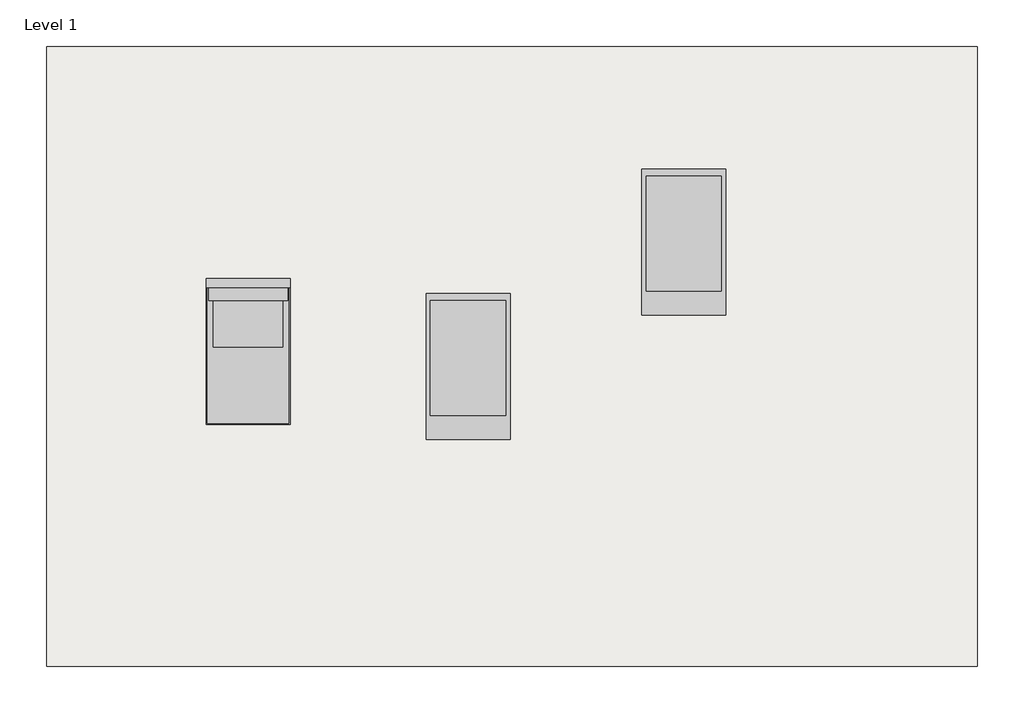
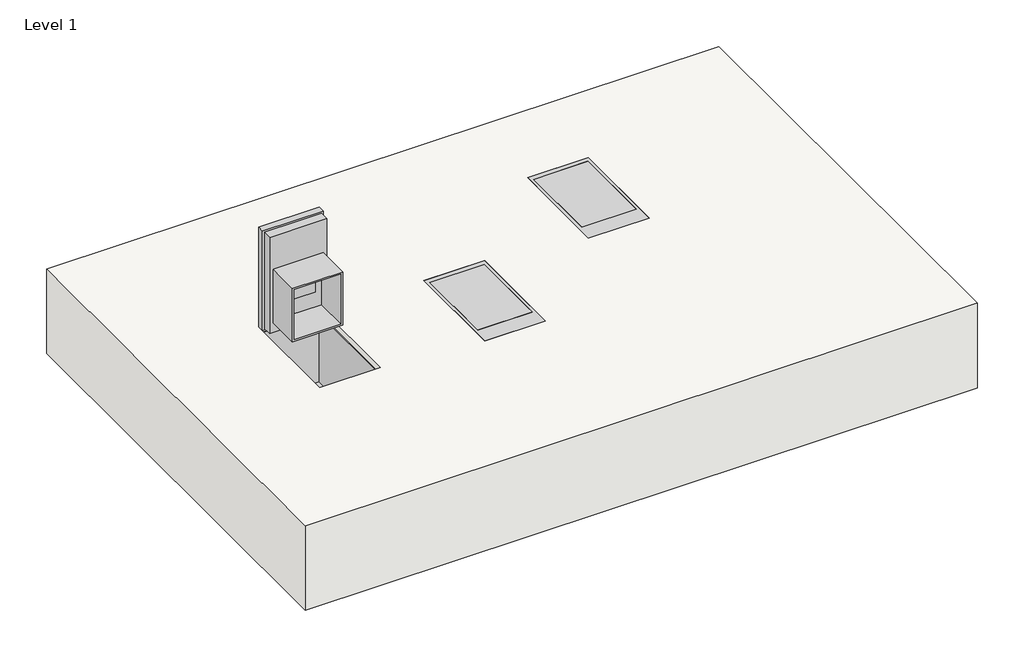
# One storey: 3 proxies, 1 slab.
"""IFC4 building model written with IfcOpenShell, lengths in millimetres."""

import ifcopenshell
import ifcopenshell.guid

model = None  # the IFC model being written
_history = None  # IfcOwnerHistory: only IFC2X3 demands one
_inside = {}  # id of a spatial element -> (the spatial element, [elements in it])
_under = {}  # id of a project, library or spatial element -> (it, [spatial elements below it])
_declared = {}  # id of a project -> (the project, [libraries it declares])
_typed = {}  # id of a type object -> (the type object, [elements of that type])
_made_of = {}  # id of a material, layer set ... -> (it, [elements and type objects made of it])


def new_model(schema):
    """Start an empty IFC model of exactly this schema.

    Asked for "IFC4X3", IfcOpenShell would pick the latest addendum, in which some entities
    have other attributes; the version numbers below select the first issue.
    IFC2X3 requires an IfcOwnerHistory on every rooted entity: one is made here for all.
    """
    global model, _history
    if schema == "IFC4X3":
        model = ifcopenshell.file(schema_version=(4, 3, 0, 0))
    else:
        model = ifcopenshell.file(schema=schema)
    _inside.clear()
    _under.clear()
    _declared.clear()
    _typed.clear()
    _made_of.clear()
    _history = None
    if model.schema == "IFC2X3":
        org = make("IfcOrganization", Name="unknown")
        user = make(
            "IfcPersonAndOrganization",
            ThePerson=make("IfcPerson", FamilyName="unknown"),
            TheOrganization=org,
        )
        app = make(
            "IfcApplication",
            ApplicationDeveloper=org,
            Version="unknown",
            ApplicationFullName="unknown",
            ApplicationIdentifier="unknown",
        )
        _history = make(
            "IfcOwnerHistory",
            OwningUser=user,
            OwningApplication=app,
            ChangeAction="ADDED",
            CreationDate=0,
        )
    return model


def make(cls, **values):
    """One entity of the class cls with the attributes given. An attribute that is None is left unset."""
    return model.create_entity(
        cls, **{name: value for name, value in values.items() if value is not None}
    )


def rooted(cls, **values):
    """An entity with a GlobalId (a new one), such as an element, a storey or a relation."""
    return make(cls, GlobalId=ifcopenshell.guid.new(), OwnerHistory=_history, **values)


def si_unit(unit_type, name, prefix=None):
    """IfcSIUnit, for example si_unit("LENGTHUNIT", "METRE", prefix="MILLI")."""
    return make("IfcSIUnit", UnitType=unit_type, Prefix=prefix, Name=name)


def assignment(units):
    """IfcUnitAssignment: the units of a project."""
    return None if units is None else make("IfcUnitAssignment", Units=units)


def point(xyz):
    """IfcCartesianPoint."""
    return None if xyz is None else make("IfcCartesianPoint", Coordinates=xyz)


def direction(xyz):
    """IfcDirection."""
    return None if xyz is None else make("IfcDirection", DirectionRatios=xyz)


def frame(location, z_axis=None, x_axis=None):
    """IfcAxis2Placement3D, a coordinate frame: its origin and axes. An axis left out is left unset."""
    return make(
        "IfcAxis2Placement3D",
        Location=point(location),
        Axis=direction(z_axis),
        RefDirection=direction(x_axis),
    )


def origin():
    """The frame at (0, 0, 0) with its axes left unset."""
    return frame((0.0, 0.0, 0.0))


def place(relative_to, where):
    """IfcLocalPlacement: puts the frame where relative to a parent placement (None: the world)."""
    return make(
        "IfcLocalPlacement", PlacementRelTo=relative_to, RelativePlacement=where
    )


def context(
    kind, dimensions, precision=None, world=None, true_north=None, identifier=None
):
    """IfcGeometricRepresentationContext, for example the 3D "Model" context."""
    return make(
        "IfcGeometricRepresentationContext",
        ContextIdentifier=identifier,
        ContextType=kind,
        CoordinateSpaceDimension=dimensions,
        Precision=precision,
        WorldCoordinateSystem=world,
        TrueNorth=true_north,
    )


def project(units=None, contexts=None):
    """IfcProject with its units and contexts."""
    return rooted(
        "IfcProject",
        Name="project",
        RepresentationContexts=contexts,
        UnitsInContext=assignment(units),
    )


def spatial(cls, under=None, at=None, **own):
    """A site, building, storey or space (cls), placed at a placement, below another one or the project."""
    s = rooted(cls, ObjectPlacement=at, **own)
    if under is not None:
        _under.setdefault(under.id(), (under, []))[1].append(s)
    return s


def polyline(points):
    """IfcPolyline through the points."""
    return make("IfcPolyline", Points=[point(p) for p in points])


def outline(outer, holes=None, kind="AREA"):
    """IfcArbitraryClosedProfileDef: a profile drawn as a closed curve; with holes, ...WithVoids."""
    if holes is None:
        return make("IfcArbitraryClosedProfileDef", ProfileType=kind, OuterCurve=outer)
    return make(
        "IfcArbitraryProfileDefWithVoids",
        ProfileType=kind,
        OuterCurve=outer,
        InnerCurves=holes,
    )


def extrude(swept, where, along, depth):
    """IfcExtrudedAreaSolid: the profile swept, set in the frame where, extruded along a direction by depth."""
    return make(
        "IfcExtrudedAreaSolid",
        SweptArea=swept,
        Position=where,
        ExtrudedDirection=direction(along),
        Depth=depth,
    )


def faces_of(points, faces, orient=None, outer=None):
    """IfcFace entities. A face is a list of loops; a loop is a list of indices into points, from 0.

    orient and outer hold one flag for each loop. By default every Orientation is true, the
    first loop of a face is its IfcFaceOuterBound and the others are IfcFaceBound.
    """
    made = []
    for i, loops in enumerate(faces):
        bounds = []
        for j, loop in enumerate(loops):
            is_outer = j == 0 if outer is None else outer[i][j]
            bounds.append(
                make(
                    "IfcFaceOuterBound" if is_outer else "IfcFaceBound",
                    Bound=make("IfcPolyLoop", Polygon=[points[k] for k in loop]),
                    Orientation=True if orient is None else orient[i][j],
                )
            )
        made.append(make("IfcFace", Bounds=bounds))
    return made


def faceted_brep(points, faces, orient=None, outer=None, voids=None):
    """IfcFacetedBrep: a solid bounded by flat faces; with voids (closed shells), ...WithVoids."""
    shared = [point(p) for p in points]
    hull = make("IfcClosedShell", CfsFaces=faces_of(shared, faces, orient, outer))
    if voids is None:
        return make("IfcFacetedBrep", Outer=hull)
    return make(
        "IfcFacetedBrepWithVoids",
        Outer=hull,
        Voids=[
            make(cls, CfsFaces=faces_of(shared, fs, o, b)) for cls, fs, o, b in voids
        ],
    )


def shape(context_of_items, identifier, shape_type, items):
    """IfcShapeRepresentation: the items that make up one representation, for example the "Body"."""
    return make(
        "IfcShapeRepresentation",
        ContextOfItems=context_of_items,
        RepresentationIdentifier=identifier,
        RepresentationType=shape_type,
        Items=items,
    )


def source(mapping_origin, context_of_items, identifier, shape_type, items):
    """IfcRepresentationMap: a shape defined once, which mapped items show again and again."""
    return make(
        "IfcRepresentationMap",
        MappingOrigin=mapping_origin,
        MappedRepresentation=shape(context_of_items, identifier, shape_type, items),
    )


def transform(
    local_origin,
    x_axis=None,
    y_axis=None,
    z_axis=None,
    scale=None,
    scale2=None,
    scale3=None,
    uniform=True,
):
    """IfcCartesianTransformationOperator3D, or its non-uniform kind. x_axis, y_axis, z_axis: its Axis1, 2, 3."""
    if uniform:
        return make(
            "IfcCartesianTransformationOperator3D",
            Axis1=direction(x_axis),
            Axis2=direction(y_axis),
            LocalOrigin=point(local_origin),
            Scale=scale,
            Axis3=direction(z_axis),
        )
    return make(
        "IfcCartesianTransformationOperator3DnonUniform",
        Axis1=direction(x_axis),
        Axis2=direction(y_axis),
        LocalOrigin=point(local_origin),
        Scale=scale,
        Axis3=direction(z_axis),
        Scale2=scale2,
        Scale3=scale3,
    )


def mapped(mapping_source, mapping_target):
    """IfcMappedItem: shows the shape of a source again, moved by a transform."""
    return make(
        "IfcMappedItem", MappingSource=mapping_source, MappingTarget=mapping_target
    )


def made_of(thing, what):
    """Note that an element or type object is made of a material, layer set ...; save() writes the relation."""
    if what is not None:
        _made_of.setdefault(what.id(), (what, []))[1].append(thing)
    return thing


def element(
    cls,
    number,
    at=None,
    inside=None,
    cuts=None,
    type_object=None,
    material=None,
    context=None,
    identifier="Body",
    shape_type=None,
    held_by="IfcProductDefinitionShape",
    body=None,
    shapes=None,
    **own,
):
    """One element of the class cls, such as IfcWall. Its Tag is "e" and its number.

    at: its placement. inside: the storey or other place that contains it. cuts: it is an
    opening in that element (IfcRelVoidsElement). A single representation is given by context,
    identifier, shape_type and body (its items); several are given by shapes. held_by: the class
    of the entity that holds the representations. save() writes the other relations.
    """
    e = rooted(cls, Tag="e%d" % number, ObjectPlacement=at, **own)
    if body is not None:
        shapes = [shape(context, identifier, shape_type, body)]
    if shapes is not None:
        e.Representation = make(held_by, Representations=shapes)
    if inside is not None:
        _inside.setdefault(inside.id(), (inside, []))[1].append(e)
    if cuts is not None:
        rooted(
            "IfcRelVoidsElement", RelatingBuildingElement=cuts, RelatedOpeningElement=e
        )
    if type_object is not None:
        _typed.setdefault(type_object.id(), (type_object, []))[1].append(e)
    return made_of(e, material)


def aggregate(whole, parts):
    """IfcRelAggregates: a whole, such as a stair, and the parts it consists of."""
    return rooted("IfcRelAggregates", RelatingObject=whole, RelatedObjects=parts)


def save(model, path):
    """Write the relations noted so far, then the file.

    IfcRelAggregates (storeys below a building ...), IfcRelContainedInSpatialStructure (elements
    in a storey), IfcRelDefinesByType, IfcRelAssociatesMaterial and IfcRelDeclares: one each for
    every whole, place, type object, material and project.
    """
    for whole, parts in _under.values():
        aggregate(whole, parts)
    for where, things in _inside.values():
        rooted(
            "IfcRelContainedInSpatialStructure",
            RelatedElements=things,
            RelatingStructure=where,
        )
    for kind, things in _typed.values():
        rooted("IfcRelDefinesByType", RelatedObjects=things, RelatingType=kind)
    for what, things in _made_of.values():
        rooted("IfcRelAssociatesMaterial", RelatedObjects=things, RelatingMaterial=what)
    for by, libraries in _declared.values():
        rooted("IfcRelDeclares", RelatingContext=by, RelatedDefinitions=libraries)
    model.write(path)


def ground_box_black_cover_7d9e8b28(model_context):
    return source(origin(), model_context, "Body", "SolidModel", [
        extrude(outline(polyline([(-179.3875, -92.5195), (-179.3875, 92.5195), (-173.0375, 92.5195), (-173.0375, -92.5195), (-179.3875, -92.5195)])), frame((0.0, 0.0, 17.018), z_axis=(0.0, 0.0, 1.0), x_axis=(1.0, 0.0, 0.0)), (0.0, 0.0, 1.0), 282.829),
        faceted_brep([(-179.3875, 103.1875, 358.775), (-179.3875, 103.1875, 0.0), (-179.3875, -103.1875, 0.0), (-179.3875, -103.1875, 358.775), (-179.3875, 92.5195, 17.018), (-179.3875, 92.5195, 299.847), (-179.3875, -92.5195, 299.847), (-179.3875, -92.5195, 17.018), (-157.1625, 103.1875, 358.775), (-157.1625, -103.1875, 358.775), (-157.1625, -103.1875, 0.0), (-157.1625, 103.1875, 0.0), (-173.0375, 92.5195, 299.847), (-173.0375, 92.5195, 17.018), (-173.0375, -92.5195, 17.018), (-173.0375, -92.5195, 299.847)], [[[0, 1, 2, 3], [4, 5, 6, 7]], [[8, 9, 10, 11]], [[1, 0, 8, 11]], [[2, 1, 11, 10]], [[3, 2, 10, 9]], [[0, 3, 9, 8]], [[12, 13, 14, 15]], [[13, 12, 5, 4]], [[14, 13, 4, 7]], [[15, 14, 7, 6]], [[12, 15, 6, 5]]]),
        extrude(outline(polyline([(-125.4125, -55.118), (-125.4125, 55.118), (-119.0625, 55.118), (-119.0625, -55.118), (-125.4125, -55.118)])), frame((0.0, 0.0, 107.442), z_axis=(0.0, 0.0, 1.0), x_axis=(1.0, 0.0, 0.0)), (0.0, 0.0, 1.0), 108.712),
        extrude(outline(polyline([(85.4075, 234.188), (85.4075, 42.418), (-85.4075, 42.418), (-85.4075, 234.188), (85.4075, 234.188)]), holes=[polyline([(79.0575, 227.838), (-79.0575, 227.838), (-79.0575, 48.768), (79.0575, 48.768), (79.0575, 227.838)])]), frame((-125.4125, 0.0, 0.0), z_axis=(1.0, 0.0, 0.0), x_axis=(0.0, 1.0, 0.0)), (0.0, 0.0, 1.0), 114.3),
        extrude(outline(polyline([(-157.1625, -96.8375), (-157.1625, 96.8375), (-125.4125, 96.8375), (-125.4125, -96.8375), (-157.1625, -96.8375)])), frame((0.0, 0.0, 6.35), z_axis=(0.0, 0.0, 1.0), x_axis=(1.0, 0.0, 0.0)), (0.0, 0.0, 1.0), 346.075),
        faceted_brep([(-204.7875, -96.8375, -266.7), (-179.3875, -96.8375, -266.7), (-179.3875, 45.0035204, -266.7), (-188.9125, 45.0035204, -266.7), (-188.9125, 96.8375, -266.7), (-204.7875, 96.8375, -266.7), (179.3875, -96.8375, -266.7), (204.7875, -96.8375, -266.7), (204.7875, 96.8375, -266.7), (188.9125, 96.8375, -266.7), (188.9125, 45.0035204, -266.7), (179.3875, 45.0035204, -266.7), (204.7875, 103.1875, -273.05), (204.7875, 103.1875, -266.7), (204.7875, -96.8375, -120.65), (204.7875, -103.1875, -120.65), (204.7875, -103.1875, -273.05), (-204.7875, 103.1875, -266.7), (-204.7875, 103.1875, -273.05), (-204.7875, -103.1875, -273.05), (-204.7875, -103.1875, -120.65), (-204.7875, -96.8375, -120.65), (179.3875, -96.8375, -146.05), (188.9125, -96.8375, -146.05), (188.9125, -96.8375, -120.65), (-188.9125, -96.8375, -120.65), (-188.9125, -96.8375, -146.05), (-179.3875, -96.8375, -146.05), (188.9125, -103.1875, -120.65), (188.9125, -103.1875, -146.05), (179.3875, -103.1875, -146.05), (-188.9125, -103.1875, -146.05), (-179.3875, -103.1875, -146.05), (-188.9125, -103.1875, -120.65), (-188.9125, 96.8375, -207.4536934), (188.9125, 96.8375, -207.4536934), (188.9125, 103.1875, -207.4536934), (-188.9125, 103.1875, -207.4536934), (188.9125, 109.5375, -146.05), (188.9125, 109.5375, -165.1), (188.9125, 122.2375, -165.1), (188.9125, 122.2375, -120.65), (188.9125, 84.1375, -120.65), (188.9125, 103.1875, -146.05), (179.3875, 109.5375, -146.05), (179.3875, 103.1875, -146.05), (179.3875, 103.1875, -120.65), (179.3875, 122.2375, -120.65), (179.3875, 122.2375, -165.1), (179.3875, 109.5375, -165.1), (179.3875, 84.1375, -120.65), (-179.3875, 109.5375, -146.05), (-179.3875, 109.5375, -165.1), (-179.3875, 122.2375, -165.1), (-179.3875, 122.2375, -120.65), (-179.3875, 103.1875, -120.65), (-179.3875, 103.1875, -146.05), (-188.9125, 109.5375, -146.05), (-188.9125, 103.1875, -146.05), (-188.9125, 84.1375, -120.65), (-188.9125, 122.2375, -120.65), (-188.9125, 122.2375, -165.1), (-188.9125, 109.5375, -165.1), (-179.3875, 84.1375, -120.65), (179.3875, 103.1875, -22.225), (-179.3875, 103.1875, -22.225), (-179.3875, -103.1875, -22.225), (179.3875, -103.1875, -22.225), (-176.2125, 100.0125, -22.225), (176.2125, 100.0125, -22.225), (176.2125, -100.0125, -22.225), (-176.2125, -100.0125, -22.225), (176.2125, 100.0125, -266.7), (-176.2125, 100.0125, -266.7), (-176.2125, -100.0125, -266.7), (176.2125, -100.0125, -266.7)], [[[0, 1, 2, 3, 4, 5]], [[6, 7, 8, 9, 10, 11]], [[12, 13, 8, 7, 14, 15, 16]], [[17, 18, 19, 20, 21, 0, 5]], [[22, 23, 24, 14, 7, 6]], [[21, 25, 26, 27, 1, 0]], [[28, 15, 14, 24]], [[29, 28, 24, 23]], [[30, 29, 23, 22]], [[31, 32, 27, 26]], [[33, 31, 26, 25]], [[20, 33, 25, 21]], [[5, 4, 34]], [[9, 8, 35]], [[8, 13, 36, 35]], [[17, 5, 34, 37]], [[38, 39, 40, 41, 42, 10, 9, 35, 36, 43]], [[44, 45, 46, 47, 48, 49]], [[39, 38, 44, 49]], [[40, 39, 49, 48]], [[41, 40, 48, 47]], [[42, 41, 47, 46, 50]], [[10, 42, 50, 11]], [[38, 43, 45, 44]], [[51, 52, 53, 54, 55, 56]], [[57, 58, 37, 34, 4, 3, 59, 60, 61, 62]], [[52, 51, 57, 62]], [[53, 52, 62, 61]], [[54, 53, 61, 60]], [[60, 59, 63, 55, 54]], [[59, 3, 2, 63]], [[51, 56, 58, 57]], [[64, 65, 66, 67], [68, 69, 70, 71]], [[18, 12, 16, 19]], [[65, 64, 46, 45, 43, 36, 13, 12, 18, 17, 37, 58, 56, 55]], [[66, 65, 55, 63, 2, 1, 27, 32]], [[67, 66, 32, 31, 33, 20, 19, 16, 15, 28, 29, 30]], [[64, 67, 30, 22, 6, 11, 50, 46]], [[72, 73, 74, 75]], [[73, 72, 69, 68]], [[74, 73, 68, 71]], [[75, 74, 71, 70]], [[72, 75, 70, 69]]]),
    ])


def ground_box_brown_cover_0e2991a0(model_context):
    return source(origin(), model_context, "Body", "SolidModel", [
        extrude(outline(polyline([(120.4595, 92.5195), (120.4595, -92.5195), (-162.3695, -92.5195), (-162.3695, 92.5195), (120.4595, 92.5195)])), frame((0.0, 0.0, -6.35), z_axis=(0.0, 0.0, 1.0), x_axis=(1.0, 0.0, 0.0)), (0.0, 0.0, 1.0), 6.35),
        faceted_brep([(179.3875, 103.1875, 0.0), (-179.3875, 103.1875, 0.0), (-179.3875, -103.1875, 0.0), (179.3875, -103.1875, 0.0), (-162.3695, 92.5195, 0.0), (120.4595, 92.5195, 0.0), (120.4595, -92.5195, 0.0), (-162.3695, -92.5195, 0.0), (179.3875, 103.1875, -22.225), (179.3875, -103.1875, -22.225), (-179.3875, -103.1875, -22.225), (-179.3875, 103.1875, -22.225), (120.4595, 92.5195, -6.35), (-162.3695, 92.5195, -6.35), (-162.3695, -92.5195, -6.35), (120.4595, -92.5195, -6.35)], [[[0, 1, 2, 3], [4, 5, 6, 7]], [[8, 9, 10, 11]], [[1, 0, 8, 11]], [[2, 1, 11, 10]], [[3, 2, 10, 9]], [[0, 3, 9, 8]], [[12, 13, 14, 15]], [[13, 12, 5, 4]], [[14, 13, 4, 7]], [[15, 14, 7, 6]], [[12, 15, 6, 5]]]),
        extrude(outline(polyline([(36.7665, 31.75), (36.7665, -31.75), (-71.9455, -31.75), (-71.9455, 31.75), (36.7665, 31.75)])), frame((0.0, 0.0, -60.325), z_axis=(0.0, 0.0, 1.0), x_axis=(1.0, 0.0, 0.0)), (0.0, 0.0, 1.0), 6.35),
        extrude(outline(polyline([(54.8005, 85.4075), (54.8005, -85.4075), (-136.9695, -85.4075), (-136.9695, 85.4075), (54.8005, 85.4075)]), holes=[polyline([(48.4505, 79.0575), (-130.6195, 79.0575), (-130.6195, -79.0575), (48.4505, -79.0575), (48.4505, 79.0575)])]), frame((0.0, 0.0, -168.275), z_axis=(0.0, 0.0, 1.0), x_axis=(1.0, 0.0, 0.0)), (0.0, 0.0, 1.0), 114.3),
        extrude(outline(polyline([(173.0375, 96.8375), (173.0375, -96.8375), (-173.0375, -96.8375), (-173.0375, 96.8375), (173.0375, 96.8375)])), frame((0.0, 0.0, -53.975), z_axis=(0.0, 0.0, 1.0), x_axis=(1.0, 0.0, 0.0)), (0.0, 0.0, 1.0), 31.75),
        faceted_brep([(-204.7875, -96.8375, -266.7), (-179.3875, -96.8375, -266.7), (-179.3875, 45.0035204, -266.7), (-188.9125, 45.0035204, -266.7), (-188.9125, 96.8375, -266.7), (-204.7875, 96.8375, -266.7), (179.3875, -96.8375, -266.7), (204.7875, -96.8375, -266.7), (204.7875, 96.8375, -266.7), (188.9125, 96.8375, -266.7), (188.9125, 45.0035204, -266.7), (179.3875, 45.0035204, -266.7), (204.7875, 103.1875, -273.05), (204.7875, 103.1875, -266.7), (204.7875, -96.8375, -120.65), (204.7875, -103.1875, -120.65), (204.7875, -103.1875, -273.05), (-204.7875, 103.1875, -266.7), (-204.7875, 103.1875, -273.05), (-204.7875, -103.1875, -273.05), (-204.7875, -103.1875, -120.65), (-204.7875, -96.8375, -120.65), (179.3875, -96.8375, -146.05), (188.9125, -96.8375, -146.05), (188.9125, -96.8375, -120.65), (-188.9125, -96.8375, -120.65), (-188.9125, -96.8375, -146.05), (-179.3875, -96.8375, -146.05), (188.9125, -103.1875, -120.65), (188.9125, -103.1875, -146.05), (179.3875, -103.1875, -146.05), (-188.9125, -103.1875, -146.05), (-179.3875, -103.1875, -146.05), (-188.9125, -103.1875, -120.65), (-188.9125, 96.8375, -207.4536934), (188.9125, 96.8375, -207.4536934), (188.9125, 103.1875, -207.4536934), (-188.9125, 103.1875, -207.4536934), (188.9125, 109.5375, -146.05), (188.9125, 109.5375, -165.1), (188.9125, 122.2375, -165.1), (188.9125, 122.2375, -120.65), (188.9125, 84.1375, -120.65), (188.9125, 103.1875, -146.05), (179.3875, 109.5375, -146.05), (179.3875, 103.1875, -146.05), (179.3875, 103.1875, -120.65), (179.3875, 122.2375, -120.65), (179.3875, 122.2375, -165.1), (179.3875, 109.5375, -165.1), (179.3875, 84.1375, -120.65), (-179.3875, 109.5375, -146.05), (-179.3875, 109.5375, -165.1), (-179.3875, 122.2375, -165.1), (-179.3875, 122.2375, -120.65), (-179.3875, 103.1875, -120.65), (-179.3875, 103.1875, -146.05), (-188.9125, 109.5375, -146.05), (-188.9125, 103.1875, -146.05), (-188.9125, 84.1375, -120.65), (-188.9125, 122.2375, -120.65), (-188.9125, 122.2375, -165.1), (-188.9125, 109.5375, -165.1), (-179.3875, 84.1375, -120.65), (179.3875, 103.1875, -22.225), (-179.3875, 103.1875, -22.225), (-179.3875, -103.1875, -22.225), (179.3875, -103.1875, -22.225), (-176.2125, 100.0125, -22.225), (176.2125, 100.0125, -22.225), (176.2125, -100.0125, -22.225), (-176.2125, -100.0125, -22.225), (176.2125, 100.0125, -266.7), (-176.2125, 100.0125, -266.7), (-176.2125, -100.0125, -266.7), (176.2125, -100.0125, -266.7)], [[[0, 1, 2, 3, 4, 5]], [[6, 7, 8, 9, 10, 11]], [[12, 13, 8, 7, 14, 15, 16]], [[17, 18, 19, 20, 21, 0, 5]], [[22, 23, 24, 14, 7, 6]], [[21, 25, 26, 27, 1, 0]], [[28, 15, 14, 24]], [[29, 28, 24, 23]], [[30, 29, 23, 22]], [[31, 32, 27, 26]], [[33, 31, 26, 25]], [[20, 33, 25, 21]], [[5, 4, 34]], [[9, 8, 35]], [[8, 13, 36, 35]], [[17, 5, 34, 37]], [[38, 39, 40, 41, 42, 10, 9, 35, 36, 43]], [[44, 45, 46, 47, 48, 49]], [[39, 38, 44, 49]], [[40, 39, 49, 48]], [[41, 40, 48, 47]], [[42, 41, 47, 46, 50]], [[10, 42, 50, 11]], [[38, 43, 45, 44]], [[51, 52, 53, 54, 55, 56]], [[57, 58, 37, 34, 4, 3, 59, 60, 61, 62]], [[52, 51, 57, 62]], [[53, 52, 62, 61]], [[54, 53, 61, 60]], [[60, 59, 63, 55, 54]], [[59, 3, 2, 63]], [[51, 56, 58, 57]], [[64, 65, 66, 67], [68, 69, 70, 71]], [[18, 12, 16, 19]], [[65, 64, 46, 45, 43, 36, 13, 12, 18, 17, 37, 58, 56, 55]], [[66, 65, 55, 63, 2, 1, 27, 32]], [[67, 66, 32, 31, 33, 20, 19, 16, 15, 28, 29, 30]], [[64, 67, 30, 22, 6, 11, 50, 46]], [[72, 73, 74, 75]], [[73, 72, 69, 68]], [[74, 73, 68, 71]], [[75, 74, 71, 70]], [[72, 75, 70, 69]]]),
    ])


model = new_model("IFC4")

# Units and contexts
model_context = context("Model", 3, world=origin())
ifc_project = project(units=[si_unit("LENGTHUNIT", "METRE", prefix="MILLI")], contexts=[model_context])

# Site, building, storey
site = spatial("IfcSite", under=ifc_project)
building = spatial("IfcBuilding", under=site)
storey = spatial("IfcBuildingStorey", under=building, Name="Level 1", Elevation=0.0)

# Proxies
placement = place(None, origin())
ground_box_black_cover_shape = ground_box_black_cover_7d9e8b28(model_context)
element("IfcBuildingElementProxy", 1, Name="Ground_Box-Outdoor-Wiremold : Ground Box, Black Cover", ObjectType="Ground_Box-Outdoor-Wiremold : Ground Box, Black Cover", at=placement, inside=storey, context=model_context, shape_type="MappedRepresentation", body=[
    mapped(ground_box_black_cover_shape, transform((2328.2028386, 1366.0253662, 0.0), x_axis=(0.0, -1.0, 0.0), y_axis=(1.0, 0.0, 0.0), z_axis=(0.0, 0.0, 1.0))),
])
ground_box_brown_cover_shape = ground_box_brown_cover_0e2991a0(model_context)
element("IfcBuildingElementProxy", 2, Name="Ground_Box-Outdoor-Wiremold : Ground Box, Brown Cover", ObjectType="Ground_Box-Outdoor-Wiremold : Ground Box, Brown Cover", at=placement, inside=storey, context=model_context, shape_type="MappedRepresentation", body=[
    mapped(ground_box_brown_cover_shape, transform((2868.5768143, 1328.9858677, 0.0), x_axis=(0.0, -1.0, 0.0), y_axis=(1.0, 0.0, 0.0), z_axis=(0.0, 0.0, 1.0))),
])
element("IfcBuildingElementProxy", 3, Name="Ground_Box-Outdoor-Wiremold : Ground Box, Gray Cover", ObjectType="Ground_Box-Outdoor-Wiremold : Ground Box, Gray Cover", at=placement, inside=storey, context=model_context, shape_type="MappedRepresentation", body=[
    mapped(ground_box_brown_cover_shape, transform((3397.8433327, 1634.9003666, 0.0), x_axis=(0.0, -1.0, 0.0), y_axis=(1.0, 0.0, 0.0), z_axis=(0.0, 0.0, 1.0))),
])

# Slab
element("IfcSlab", 4, ObjectType="Generic - 12\"", at=placement, inside=storey, context=model_context, shape_type="Brep", body=[
    faceted_brep([(4119.1973575, 2115.5766815, -304.8), (4119.1973575, 592.8311388, -304.8), (1833.1973575, 592.8311388, -304.8), (1833.1973575, 2115.5766815, -304.8), (4119.1973575, 592.8311388, 0.0), (4119.1973575, 2115.5766815, 0.0), (1833.1973575, 2115.5766815, 0.0), (1833.1973575, 592.8311388, 0.0), (2431.3903386, 1545.4128662, 0.0), (2431.3903386, 1186.6378662, 0.0), (2225.0153386, 1186.6378662, 0.0), (2225.0153386, 1545.4128662, 0.0), (2971.7643143, 1508.3733677, 0.0), (2971.7643143, 1149.5983677, 0.0), (2765.3893143, 1149.5983677, 0.0), (2765.3893143, 1508.3733677, 0.0), (3501.0308327, 1814.2878666, 0.0), (3501.0308327, 1455.5128666, 0.0), (3294.6558327, 1455.5128666, 0.0), (3294.6558327, 1814.2878666, 0.0), (2431.3903386, 1186.6378662, -273.05), (2431.3903386, 1545.4128662, -273.05), (2225.0153386, 1545.4128662, -273.05), (2225.0153386, 1186.6378662, -273.05), (2971.7643143, 1149.5983677, -273.05), (2971.7643143, 1508.3733677, -273.05), (2765.3893143, 1508.3733677, -273.05), (2765.3893143, 1149.5983677, -273.05), (3501.0308327, 1455.5128666, -273.05), (3501.0308327, 1814.2878666, -273.05), (3294.6558327, 1814.2878666, -273.05), (3294.6558327, 1455.5128666, -273.05)], [[[0, 1, 2, 3]], [[4, 5, 6, 7], [8, 9, 10, 11], [12, 13, 14, 15], [16, 17, 18, 19]], [[1, 0, 5, 4]], [[2, 1, 4, 7]], [[3, 2, 7, 6]], [[0, 3, 6, 5]], [[20, 21, 22, 23]], [[21, 20, 9, 8]], [[22, 21, 8, 11]], [[23, 22, 11, 10]], [[20, 23, 10, 9]], [[24, 25, 26, 27]], [[25, 24, 13, 12]], [[26, 25, 12, 15]], [[27, 26, 15, 14]], [[24, 27, 14, 13]], [[28, 29, 30, 31]], [[29, 28, 17, 16]], [[30, 29, 16, 19]], [[31, 30, 19, 18]], [[28, 31, 18, 17]]]),
])

save(model, "model.ifc")
